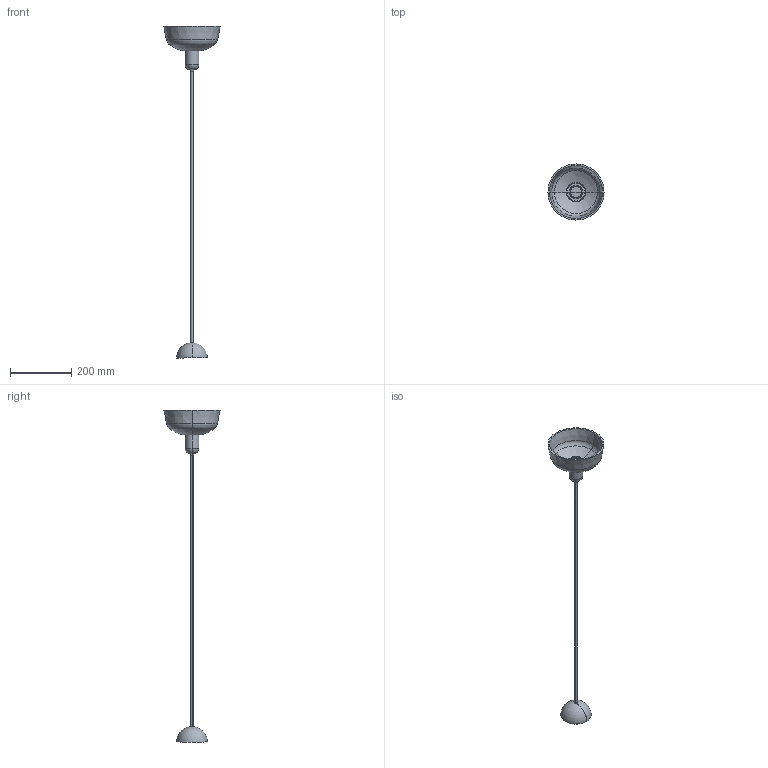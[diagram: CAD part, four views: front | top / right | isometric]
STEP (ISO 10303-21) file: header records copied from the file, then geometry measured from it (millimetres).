
FILE_DESCRIPTION(/* description */ (''),/* implementation_level */ '2;1');
FILE_NAME(/* name */ '20339-116.step',/* time_stamp */ '2024-05-29T12:53:41+02:00',/* author */ ('RenataManzini'),/* organization */ (''),/* preprocessor_version */ 'ST-DEVELOPER v20',/* originating_system */ 'AutoCAD Mechanical',/* authorisation */ '');
FILE_SCHEMA (('AUTOMOTIVE_DESIGN { 1 0 10303 214 3 1 1 }'));
Length unit declared in the file: millimetre
Products named in the file (3): Product; pieza_pantalla_S - Lamp Holder-639706-_3D_; pieza_TATAWIN_LAMP_LINEALrfa - soporte-639707-_3D_
Assembly tree (2 placements, depth 2):
  Product
    pieza_pantalla_S - Lamp Holder-639706-_3D_
    pieza_TATAWIN_LAMP_LINEALrfa - soporte-639707-_3D_
Bounding box: 184.01 x 184.01 x 1087.29 mm (x, y, z)
Volume: 421404.4 mm3; surface area: 183964.5 mm2
Topology: 7 solids, 7 shells, 130 faces, 301 edges, 179 vertices
Faces by surface type: plane 56, cylinder 48, torus 10, bspline 6, cone 6, sphere 4
Entity records: 4625 total; most frequent: CARTESIAN_POINT 1604, DIRECTION 638, ORIENTED_EDGE 596, EDGE_CURVE 298, AXIS2_PLACEMENT_3D 250, VERTEX_POINT 174, LINE 138, VECTOR 138
